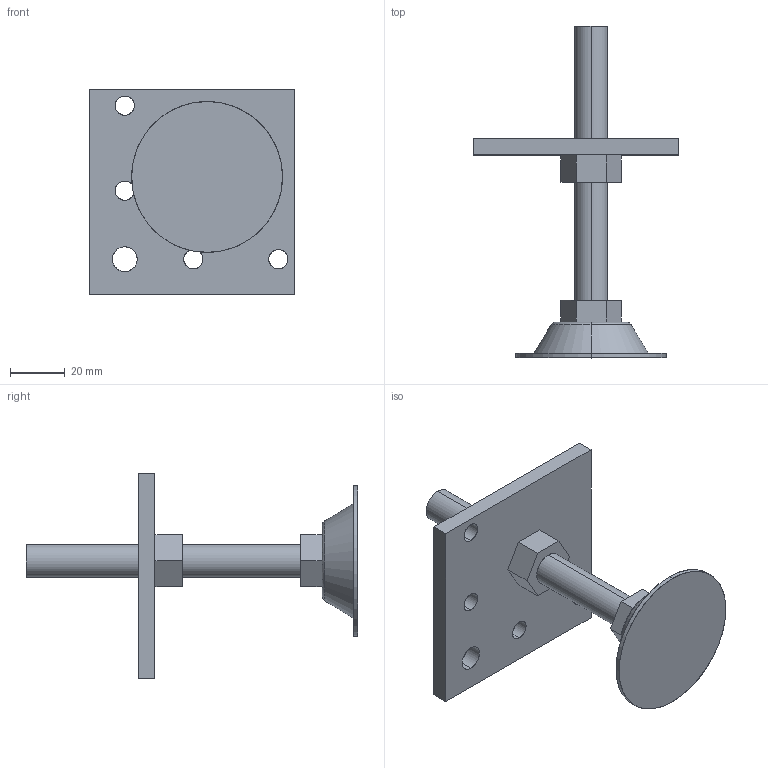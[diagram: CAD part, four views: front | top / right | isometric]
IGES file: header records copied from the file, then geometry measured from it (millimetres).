
Start section: SolidWorks IGES file using analytic representation for surfaces
Global section: file name: C:\Documents and Settings\Administrator\デスクトップ\7回目指定保存後\SolidWorks\SF\SF30\Parts\アジャスタ\SFK-503A.IGS; native system: SolidWorks 2006 by SolidWorks Corporation; preprocessor: SolidWorks 2006 by SolidWorks Corporation; author: Administrator; date: 061222.160747; units: millimetre
Bounding box: 75 x 121 x 75 mm (x, y, z)
Surface area: 24785.5 mm2 (no closed solid volume)
Topology: 0 solids, 0 shells, 47 faces, 1368 edges, 1592 vertices
Faces by surface type: bspline 27, revolution 20
